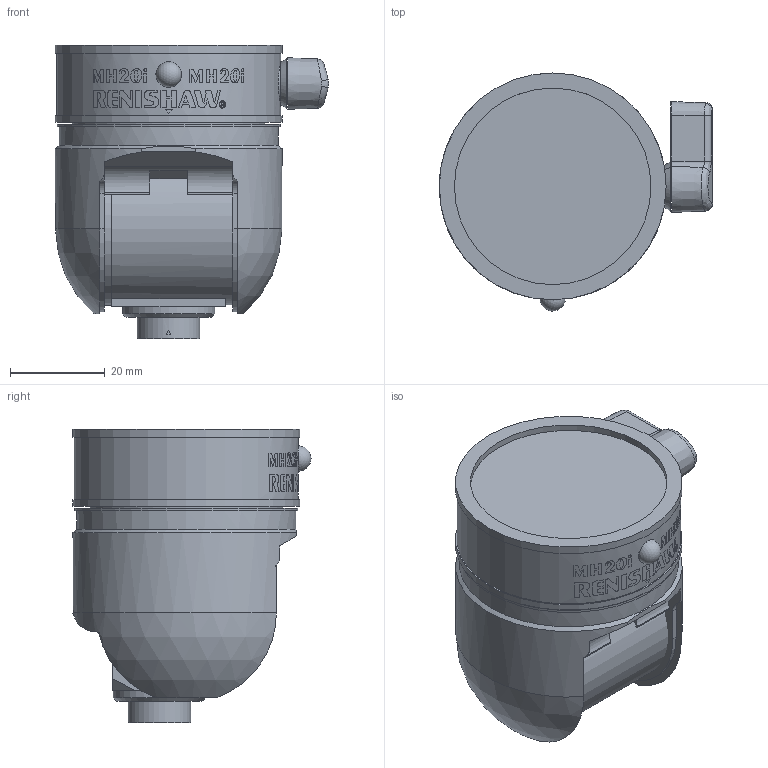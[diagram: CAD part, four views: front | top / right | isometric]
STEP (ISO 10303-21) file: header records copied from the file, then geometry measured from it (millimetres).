
FILE_DESCRIPTION(/* description */ (''),/* implementation_level */ '2;1');
FILE_NAME(/* name */ 'LA-4099-0020#-D.stp',/* time_stamp */ '2012-09-05T10:22:07+01:00',/* author */ (''),/* organization */ (''),/* preprocessor_version */ 'ST-DEVELOPER v11',/* originating_system */ 'SIEMENS PLM Software NX 7.5',/* authorisation */ '');
FILE_SCHEMA (('AUTOMOTIVE_DESIGN { 1 0 10303 214 1 1 1 1 }'));
Length unit declared in the file: millimetre
Products named in the file (1): rt13296Bv8b6
Bounding box: 57.86 x 50.38 x 62.12 mm (x, y, z)
Volume: 87777.8 mm3; surface area: 23091.4 mm2
Topology: 4 solids, 4 shells, 153 faces, 482 edges, 374 vertices
Faces by surface type: cylinder 68, plane 53, bspline 12, cone 9, torus 9, sphere 2
Full cylindrical faces by diameter (mm): 9.9 x1, 12.5 x1, 13.25 x1, 19.5 x1, 32.18 x1, 32.4 x1, 40.9 x1, 41.6 x1, 46.4 x1, 47.2 x1, 47.4 x1, 48 x2
Entity records: 7012 total; most frequent: CARTESIAN_POINT 2203, ORIENTED_EDGE 906, DIRECTION 660, EDGE_CURVE 453, VERTEX_POINT 365, AXIS2_PLACEMENT_3D 283, B_SPLINE_CURVE_WITH_KNOTS 218, EDGE_LOOP 210
